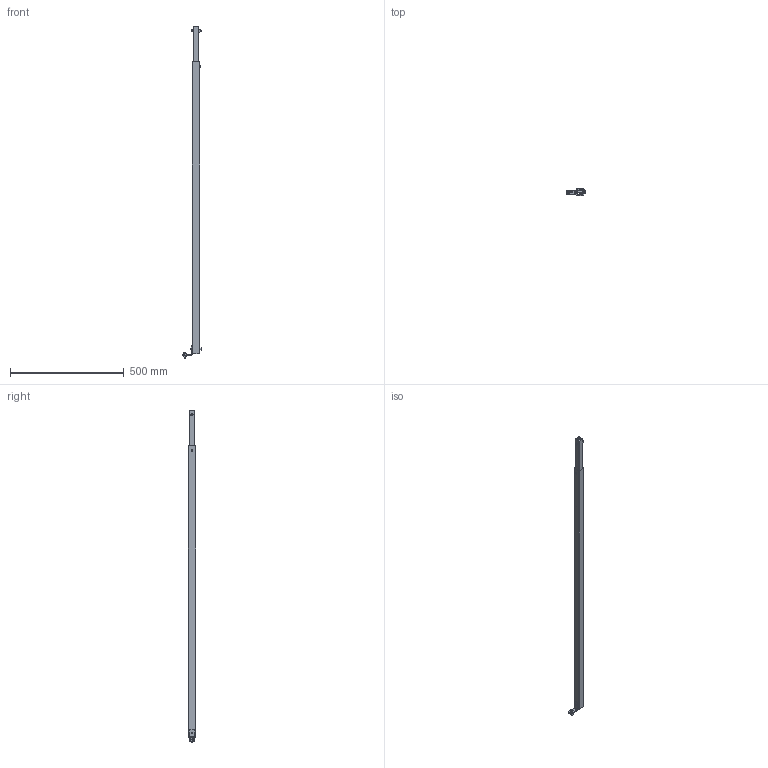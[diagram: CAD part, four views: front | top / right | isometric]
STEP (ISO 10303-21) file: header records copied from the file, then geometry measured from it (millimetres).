
FILE_DESCRIPTION((''),'2;1');
FILE_NAME('27M400-05_ASM','2023-02-27T',('jenni.wallner'),(''),'PRO/ENGINEER BY PARAMETRIC TECHNOLOGY CORPORATION, 2012420','PRO/ENGINEER BY PARAMETRIC TECHNOLOGY CORPORATION, 2012420','');
FILE_SCHEMA(('CONFIG_CONTROL_DESIGN'));
Length unit declared in the file: inch
Products named in the file (13): 233205; 233107; 930420M; 990403M; 639971M; 920612M; 233108M; 911-007; 920640M; 920616M; 920635M; 233005_ASM_ASM; 27M400-05_ASM
Assembly tree (14 placements, depth 3):
  27M400-05_ASM
    233005_ASM_ASM
      233205
      233107
      930420M
      990403M
      639971M  x3
      920612M
      233108M
      911-007
      920640M
      920616M
      920635M
Bounding box: 81.82 x 31.75 x 1458.52 mm (x, y, z)
Volume: 566913 mm3; surface area: 360963.8 mm2
Topology: 13 solids, 17 shells, 255 faces, 630 edges, 410 vertices
Faces by surface type: plane 137, cylinder 96, cone 22
Entity records: 6203 total; most frequent: DIRECTION 1118, CARTESIAN_POINT 1023, ORIENTED_EDGE 940, EDGE_CURVE 474, AXIS2_PLACEMENT_3D 401, VECTOR 316, LINE 316, VERTEX_POINT 306
